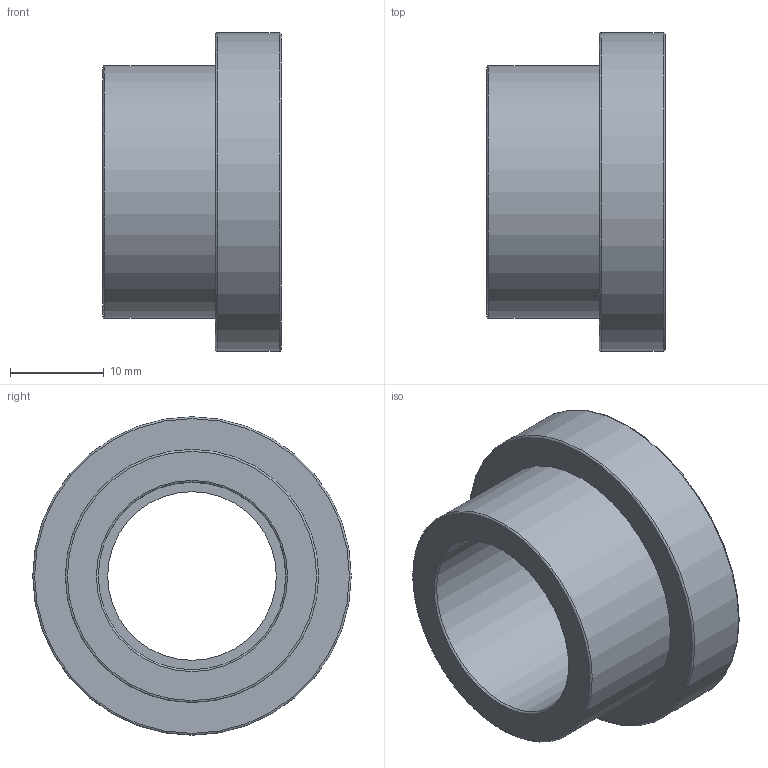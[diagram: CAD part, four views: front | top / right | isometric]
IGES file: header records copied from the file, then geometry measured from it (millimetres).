
Global section: file name: 055100020.ipt; native system: Autodesk Inventor 2015; preprocessor: unknown; author: KIM; date: 20180927.115406; units: millimetre
Bounding box: 19 x 34 x 34 mm (x, y, z)
Volume: 7432.6 mm3; surface area: 4211.5 mm2
Topology: 1 solids, 1 shells, 13 faces, 36 edges, 27 vertices
Faces by surface type: revolution 7, plane 4, cylinder 2
Full cylindrical faces by diameter (mm): 27 x1, 34 x1
